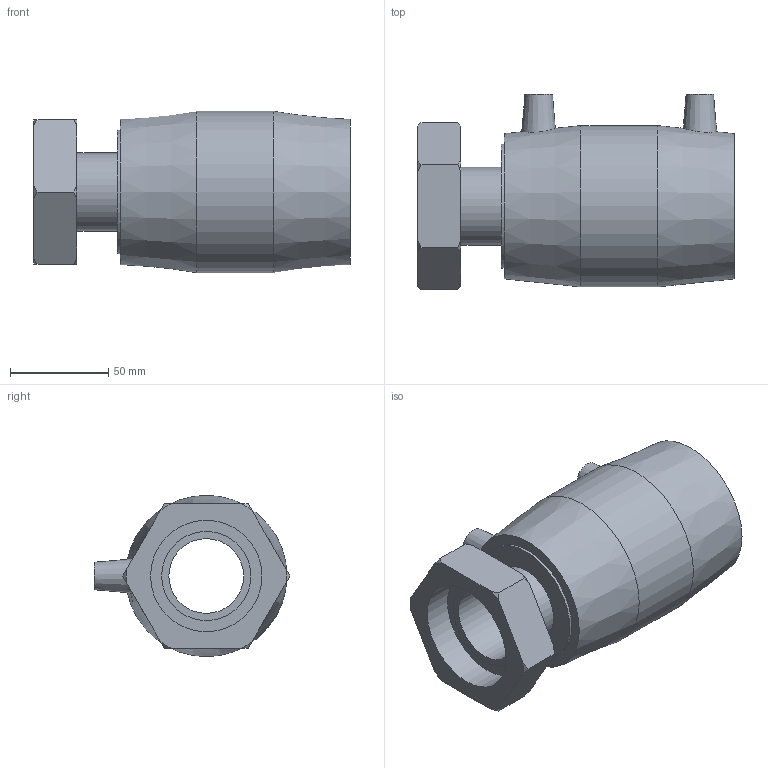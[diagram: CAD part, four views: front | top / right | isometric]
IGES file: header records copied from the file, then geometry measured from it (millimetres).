
Global section: file name: 494104063020.ipt; native system: Autodesk Inventor 2015; preprocessor: unknown; author: KIM; date: 20180426.120802; units: millimetre
Bounding box: 161 x 99.49 x 82 mm (x, y, z)
Volume: 398627.2 mm3; surface area: 82283 mm2
Topology: 1 solids, 2 shells, 54 faces, 128 edges, 88 vertices
Faces by surface type: plane 22, cone 16, revolution 9, cylinder 7
Full cylindrical faces by diameter (mm): 4 x2, 39.659 x1, 45.325 x1, 63 x2, 82 x1
